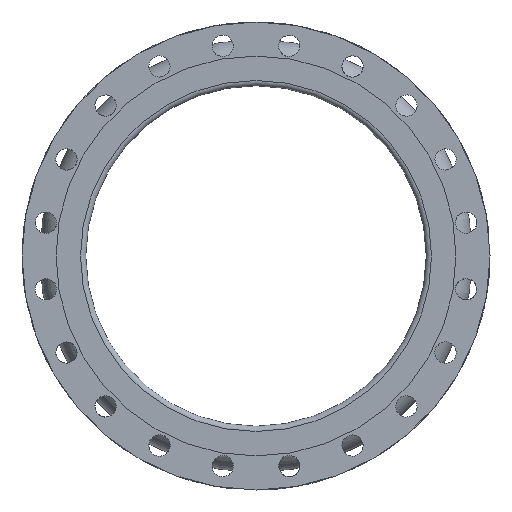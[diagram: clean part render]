
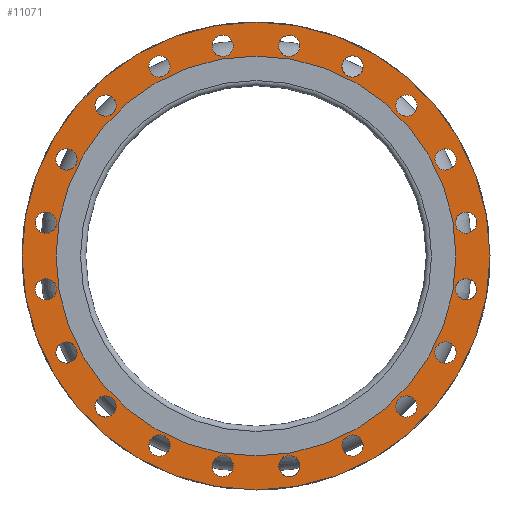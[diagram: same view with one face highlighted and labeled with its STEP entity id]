
A CAD part, left-side view. The second image highlights one B-rep face of the part: STEP entity #11071.
In plain terms, the highlighted planar face has unit normal (-1, 0, 0).
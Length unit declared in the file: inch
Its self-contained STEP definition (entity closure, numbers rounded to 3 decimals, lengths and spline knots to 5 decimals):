
#1166=PLANE('',#11789);
#1352=FACE_BOUND('',#2365,.T.);
#1353=FACE_BOUND('',#2366,.T.);
#1354=FACE_BOUND('',#2367,.T.);
#1355=FACE_BOUND('',#2368,.T.);
#1356=FACE_BOUND('',#2369,.T.);
#1357=FACE_BOUND('',#2370,.T.);
#1358=FACE_BOUND('',#2371,.T.);
#1359=FACE_BOUND('',#2372,.T.);
#1360=FACE_BOUND('',#2373,.T.);
#1361=FACE_BOUND('',#2374,.T.);
#1362=FACE_BOUND('',#2375,.T.);
#1363=FACE_BOUND('',#2376,.T.);
#1364=FACE_BOUND('',#2377,.T.);
#1365=FACE_BOUND('',#2378,.T.);
#1366=FACE_BOUND('',#2379,.T.);
#1367=FACE_BOUND('',#2380,.T.);
#1368=FACE_BOUND('',#2381,.T.);
#1369=FACE_BOUND('',#2382,.T.);
#1370=FACE_BOUND('',#2383,.T.);
#1371=FACE_BOUND('',#2384,.T.);
#1372=FACE_BOUND('',#2385,.T.);
#1698=FACE_OUTER_BOUND('',#2364,.T.);
#2364=EDGE_LOOP('',(#6944));
#2365=EDGE_LOOP('',(#6945));
#2366=EDGE_LOOP('',(#6946));
#2367=EDGE_LOOP('',(#6947));
#2368=EDGE_LOOP('',(#6948));
#2369=EDGE_LOOP('',(#6949));
#2370=EDGE_LOOP('',(#6950));
#2371=EDGE_LOOP('',(#6951));
#2372=EDGE_LOOP('',(#6952));
#2373=EDGE_LOOP('',(#6953));
#2374=EDGE_LOOP('',(#6954));
#2375=EDGE_LOOP('',(#6955));
#2376=EDGE_LOOP('',(#6956));
#2377=EDGE_LOOP('',(#6957));
#2378=EDGE_LOOP('',(#6958));
#2379=EDGE_LOOP('',(#6959));
#2380=EDGE_LOOP('',(#6960));
#2381=EDGE_LOOP('',(#6961));
#2382=EDGE_LOOP('',(#6962));
#2383=EDGE_LOOP('',(#6963));
#2384=EDGE_LOOP('',(#6964));
#2385=EDGE_LOOP('',(#6965));
#3257=CIRCLE('',#11671,0.625);
#3259=CIRCLE('',#11674,0.625);
#3261=CIRCLE('',#11677,0.625);
#3263=CIRCLE('',#11680,0.625);
#3265=CIRCLE('',#11683,0.625);
#3267=CIRCLE('',#11686,0.625);
#3269=CIRCLE('',#11689,0.625);
#3271=CIRCLE('',#11692,0.625);
#3273=CIRCLE('',#11695,0.625);
#3275=CIRCLE('',#11698,0.625);
#3277=CIRCLE('',#11701,0.625);
#3279=CIRCLE('',#11704,0.625);
#3281=CIRCLE('',#11707,0.625);
#3283=CIRCLE('',#11710,0.625);
#3285=CIRCLE('',#11713,0.625);
#3287=CIRCLE('',#11716,0.625);
#3289=CIRCLE('',#11719,0.625);
#3291=CIRCLE('',#11722,0.625);
#3293=CIRCLE('',#11725,0.625);
#3295=CIRCLE('',#11728,0.625);
#3336=CIRCLE('',#11790,13.75);
#3337=CIRCLE('',#11791,11.75);
#4233=VERTEX_POINT('',#17041);
#4235=VERTEX_POINT('',#17046);
#4237=VERTEX_POINT('',#17051);
#4239=VERTEX_POINT('',#17056);
#4241=VERTEX_POINT('',#17061);
#4243=VERTEX_POINT('',#17066);
#4245=VERTEX_POINT('',#17071);
#4247=VERTEX_POINT('',#17076);
#4249=VERTEX_POINT('',#17081);
#4251=VERTEX_POINT('',#17086);
#4253=VERTEX_POINT('',#17091);
#4255=VERTEX_POINT('',#17096);
#4257=VERTEX_POINT('',#17101);
#4259=VERTEX_POINT('',#17106);
#4261=VERTEX_POINT('',#17111);
#4263=VERTEX_POINT('',#17116);
#4265=VERTEX_POINT('',#17121);
#4267=VERTEX_POINT('',#17126);
#4269=VERTEX_POINT('',#17131);
#4271=VERTEX_POINT('',#17136);
#4312=VERTEX_POINT('',#17239);
#4313=VERTEX_POINT('',#17241);
#5329=EDGE_CURVE('',#4233,#4233,#3257,.T.);
#5331=EDGE_CURVE('',#4235,#4235,#3259,.T.);
#5333=EDGE_CURVE('',#4237,#4237,#3261,.T.);
#5335=EDGE_CURVE('',#4239,#4239,#3263,.T.);
#5337=EDGE_CURVE('',#4241,#4241,#3265,.T.);
#5339=EDGE_CURVE('',#4243,#4243,#3267,.T.);
#5341=EDGE_CURVE('',#4245,#4245,#3269,.T.);
#5343=EDGE_CURVE('',#4247,#4247,#3271,.T.);
#5345=EDGE_CURVE('',#4249,#4249,#3273,.T.);
#5347=EDGE_CURVE('',#4251,#4251,#3275,.T.);
#5349=EDGE_CURVE('',#4253,#4253,#3277,.T.);
#5351=EDGE_CURVE('',#4255,#4255,#3279,.T.);
#5353=EDGE_CURVE('',#4257,#4257,#3281,.T.);
#5355=EDGE_CURVE('',#4259,#4259,#3283,.T.);
#5357=EDGE_CURVE('',#4261,#4261,#3285,.T.);
#5359=EDGE_CURVE('',#4263,#4263,#3287,.T.);
#5361=EDGE_CURVE('',#4265,#4265,#3289,.T.);
#5363=EDGE_CURVE('',#4267,#4267,#3291,.T.);
#5365=EDGE_CURVE('',#4269,#4269,#3293,.T.);
#5367=EDGE_CURVE('',#4271,#4271,#3295,.T.);
#5408=EDGE_CURVE('',#4312,#4312,#3336,.T.);
#5409=EDGE_CURVE('',#4313,#4313,#3337,.T.);
#6944=ORIENTED_EDGE('',*,*,#5408,.F.);
#6945=ORIENTED_EDGE('',*,*,#5329,.T.);
#6946=ORIENTED_EDGE('',*,*,#5331,.T.);
#6947=ORIENTED_EDGE('',*,*,#5333,.T.);
#6948=ORIENTED_EDGE('',*,*,#5335,.T.);
#6949=ORIENTED_EDGE('',*,*,#5337,.T.);
#6950=ORIENTED_EDGE('',*,*,#5339,.T.);
#6951=ORIENTED_EDGE('',*,*,#5341,.T.);
#6952=ORIENTED_EDGE('',*,*,#5343,.T.);
#6953=ORIENTED_EDGE('',*,*,#5345,.T.);
#6954=ORIENTED_EDGE('',*,*,#5347,.T.);
#6955=ORIENTED_EDGE('',*,*,#5349,.T.);
#6956=ORIENTED_EDGE('',*,*,#5351,.T.);
#6957=ORIENTED_EDGE('',*,*,#5353,.T.);
#6958=ORIENTED_EDGE('',*,*,#5355,.T.);
#6959=ORIENTED_EDGE('',*,*,#5357,.T.);
#6960=ORIENTED_EDGE('',*,*,#5359,.T.);
#6961=ORIENTED_EDGE('',*,*,#5361,.T.);
#6962=ORIENTED_EDGE('',*,*,#5363,.T.);
#6963=ORIENTED_EDGE('',*,*,#5365,.T.);
#6964=ORIENTED_EDGE('',*,*,#5367,.T.);
#6965=ORIENTED_EDGE('',*,*,#5409,.T.);
#11071=ADVANCED_FACE('',(#1698,#1352,#1353,#1354,#1355,#1356,#1357,#1358,
#1359,#1360,#1361,#1362,#1363,#1364,#1365,#1366,#1367,#1368,#1369,#1370,
#1371,#1372),#1166,.T.);
#11671=AXIS2_PLACEMENT_3D('',#17042,#13277,#13278);
#11674=AXIS2_PLACEMENT_3D('',#17047,#13283,#13284);
#11677=AXIS2_PLACEMENT_3D('',#17052,#13289,#13290);
#11680=AXIS2_PLACEMENT_3D('',#17057,#13295,#13296);
#11683=AXIS2_PLACEMENT_3D('',#17062,#13301,#13302);
#11686=AXIS2_PLACEMENT_3D('',#17067,#13307,#13308);
#11689=AXIS2_PLACEMENT_3D('',#17072,#13313,#13314);
#11692=AXIS2_PLACEMENT_3D('',#17077,#13319,#13320);
#11695=AXIS2_PLACEMENT_3D('',#17082,#13325,#13326);
#11698=AXIS2_PLACEMENT_3D('',#17087,#13331,#13332);
#11701=AXIS2_PLACEMENT_3D('',#17092,#13337,#13338);
#11704=AXIS2_PLACEMENT_3D('',#17097,#13343,#13344);
#11707=AXIS2_PLACEMENT_3D('',#17102,#13349,#13350);
#11710=AXIS2_PLACEMENT_3D('',#17107,#13355,#13356);
#11713=AXIS2_PLACEMENT_3D('',#17112,#13361,#13362);
#11716=AXIS2_PLACEMENT_3D('',#17117,#13367,#13368);
#11719=AXIS2_PLACEMENT_3D('',#17122,#13373,#13374);
#11722=AXIS2_PLACEMENT_3D('',#17127,#13379,#13380);
#11725=AXIS2_PLACEMENT_3D('',#17132,#13385,#13386);
#11728=AXIS2_PLACEMENT_3D('',#17137,#13391,#13392);
#11789=AXIS2_PLACEMENT_3D('',#17238,#13513,#13514);
#11790=AXIS2_PLACEMENT_3D('',#17240,#13515,#13516);
#11791=AXIS2_PLACEMENT_3D('',#17242,#13517,#13518);
#13277=DIRECTION('center_axis',(1.,0.,0.));
#13278=DIRECTION('ref_axis',(0.,-0.309,-0.951));
#13283=DIRECTION('center_axis',(1.,0.,0.));
#13284=DIRECTION('ref_axis',(0.,-0.588,-0.809));
#13289=DIRECTION('center_axis',(1.,0.,0.));
#13290=DIRECTION('ref_axis',(0.,-0.809,-0.588));
#13295=DIRECTION('center_axis',(1.,0.,0.));
#13296=DIRECTION('ref_axis',(0.,-0.951,-0.309));
#13301=DIRECTION('center_axis',(1.,0.,0.));
#13302=DIRECTION('ref_axis',(0.,-1.,0.));
#13307=DIRECTION('center_axis',(1.,0.,0.));
#13308=DIRECTION('ref_axis',(0.,-0.951,0.309));
#13313=DIRECTION('center_axis',(1.,0.,0.));
#13314=DIRECTION('ref_axis',(0.,-0.809,0.588));
#13319=DIRECTION('center_axis',(1.,0.,0.));
#13320=DIRECTION('ref_axis',(0.,-0.588,0.809));
#13325=DIRECTION('center_axis',(1.,0.,0.));
#13326=DIRECTION('ref_axis',(0.,-0.309,0.951));
#13331=DIRECTION('center_axis',(1.,0.,0.));
#13332=DIRECTION('ref_axis',(0.,0.,1.));
#13337=DIRECTION('center_axis',(1.,0.,0.));
#13338=DIRECTION('ref_axis',(0.,0.309,0.951));
#13343=DIRECTION('center_axis',(1.,0.,0.));
#13344=DIRECTION('ref_axis',(0.,0.588,0.809));
#13349=DIRECTION('center_axis',(1.,0.,0.));
#13350=DIRECTION('ref_axis',(0.,0.809,0.588));
#13355=DIRECTION('center_axis',(1.,0.,0.));
#13356=DIRECTION('ref_axis',(0.,0.951,0.309));
#13361=DIRECTION('center_axis',(1.,0.,0.));
#13362=DIRECTION('ref_axis',(0.,1.,0.));
#13367=DIRECTION('center_axis',(1.,0.,0.));
#13368=DIRECTION('ref_axis',(0.,0.951,-0.309));
#13373=DIRECTION('center_axis',(1.,0.,0.));
#13374=DIRECTION('ref_axis',(0.,0.809,-0.588));
#13379=DIRECTION('center_axis',(1.,0.,0.));
#13380=DIRECTION('ref_axis',(0.,0.588,-0.809));
#13385=DIRECTION('center_axis',(1.,0.,0.));
#13386=DIRECTION('ref_axis',(0.,0.309,-0.951));
#13391=DIRECTION('center_axis',(1.,0.,0.));
#13392=DIRECTION('ref_axis',(0.,0.,-1.));
#13513=DIRECTION('center_axis',(-1.,0.,0.));
#13514=DIRECTION('ref_axis',(0.,0.,1.));
#13515=DIRECTION('center_axis',(1.,0.,0.));
#13516=DIRECTION('ref_axis',(0.,0.,-1.));
#13517=DIRECTION('center_axis',(1.,0.,0.));
#13518=DIRECTION('ref_axis',(0.,0.,-1.));
#17041=CARTESIAN_POINT('',(-6.,11.33072,-5.08047));
#17042=CARTESIAN_POINT('Origin',(-6.,11.13758,-5.67488));
#17046=CARTESIAN_POINT('',(-6.,9.2062,-8.3332));
#17047=CARTESIAN_POINT('Origin',(-6.,8.83883,-8.83883));
#17051=CARTESIAN_POINT('',(-6.,6.18052,-10.77022));
#17052=CARTESIAN_POINT('Origin',(-6.,5.67488,-11.13758));
#17056=CARTESIAN_POINT('',(-6.,2.54984,-12.15297));
#17057=CARTESIAN_POINT('Origin',(-6.,1.95543,-12.3461));
#17061=CARTESIAN_POINT('',(-6.,-1.33043,-12.3461));
#17062=CARTESIAN_POINT('Origin',(-6.,-1.95543,-12.3461));
#17066=CARTESIAN_POINT('',(-6.,-5.08047,-11.33072));
#17067=CARTESIAN_POINT('Origin',(-6.,-5.67488,-11.13758));
#17071=CARTESIAN_POINT('',(-6.,-8.3332,-9.2062));
#17072=CARTESIAN_POINT('Origin',(-6.,-8.83883,-8.83883));
#17076=CARTESIAN_POINT('',(-6.,-10.77022,-6.18052));
#17077=CARTESIAN_POINT('Origin',(-6.,-11.13758,-5.67488));
#17081=CARTESIAN_POINT('',(-6.,-12.15297,-2.54984));
#17082=CARTESIAN_POINT('Origin',(-6.,-12.3461,-1.95543));
#17086=CARTESIAN_POINT('',(-6.,-12.3461,1.33043));
#17087=CARTESIAN_POINT('Origin',(-6.,-12.3461,1.95543));
#17091=CARTESIAN_POINT('',(-6.,-11.33072,5.08047));
#17092=CARTESIAN_POINT('Origin',(-6.,-11.13758,5.67488));
#17096=CARTESIAN_POINT('',(-6.,-9.2062,8.3332));
#17097=CARTESIAN_POINT('Origin',(-6.,-8.83883,8.83883));
#17101=CARTESIAN_POINT('',(-6.,-6.18052,10.77022));
#17102=CARTESIAN_POINT('Origin',(-6.,-5.67488,11.13758));
#17106=CARTESIAN_POINT('',(-6.,-2.54984,12.15297));
#17107=CARTESIAN_POINT('Origin',(-6.,-1.95543,12.3461));
#17111=CARTESIAN_POINT('',(-6.,1.33043,12.3461));
#17112=CARTESIAN_POINT('Origin',(-6.,1.95543,12.3461));
#17116=CARTESIAN_POINT('',(-6.,5.08047,11.33072));
#17117=CARTESIAN_POINT('Origin',(-6.,5.67488,11.13758));
#17121=CARTESIAN_POINT('',(-6.,8.3332,9.2062));
#17122=CARTESIAN_POINT('Origin',(-6.,8.83883,8.83883));
#17126=CARTESIAN_POINT('',(-6.,10.77022,6.18052));
#17127=CARTESIAN_POINT('Origin',(-6.,11.13758,5.67488));
#17131=CARTESIAN_POINT('',(-6.,12.15297,2.54984));
#17132=CARTESIAN_POINT('Origin',(-6.,12.3461,1.95543));
#17136=CARTESIAN_POINT('',(-6.,12.3461,-1.33043));
#17137=CARTESIAN_POINT('Origin',(-6.,12.3461,-1.95543));
#17238=CARTESIAN_POINT('Origin',(-6.,13.75,0.));
#17239=CARTESIAN_POINT('',(-6.,13.75,0.));
#17240=CARTESIAN_POINT('Origin',(-6.,0.,0.));
#17241=CARTESIAN_POINT('',(-6.,11.75,0.));
#17242=CARTESIAN_POINT('Origin',(-6.,0.,0.));
